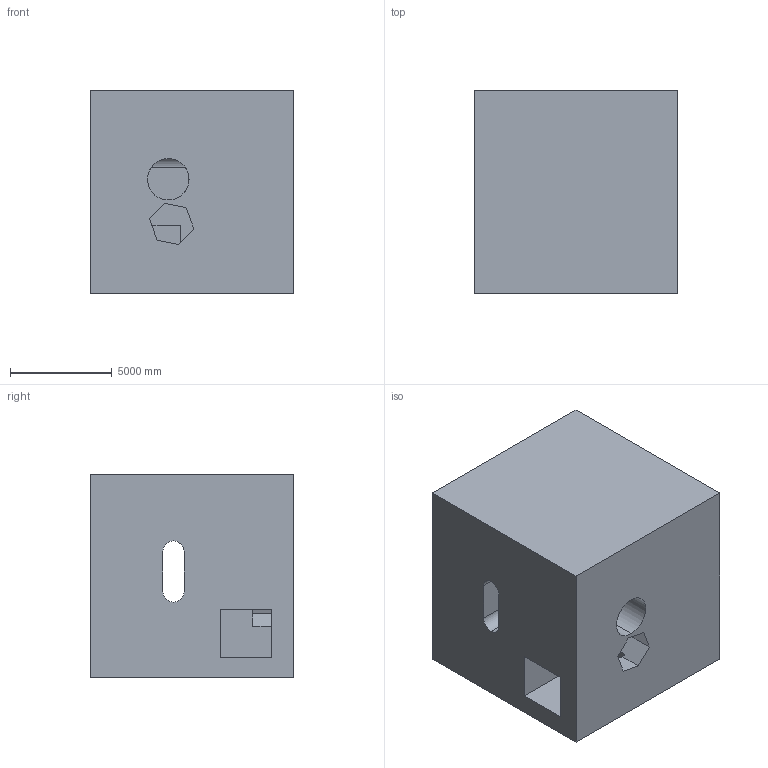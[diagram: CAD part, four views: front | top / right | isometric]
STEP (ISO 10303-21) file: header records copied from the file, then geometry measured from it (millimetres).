
FILE_DESCRIPTION (( 'STEP AP203' ), '1' );
FILE_NAME ('483.STEP', '2022-07-29T11:27:54', ( 'user' ), ( '' ), 'SwSTEP 2.0', 'SolidWorks 2021', '' );
FILE_SCHEMA (( 'CONFIG_CONTROL_DESIGN' ));
Length unit declared in the file: centimetre
Products named in the file (1): 483
Bounding box: 10000 x 10000 x 10000 mm (x, y, z)
Volume: 914703610532 mm3; surface area: 747075851.6 mm2
Topology: 1 solids, 1 shells, 29 faces, 84 edges, 56 vertices
Faces by surface type: plane 22, cylinder 7
Entity records: 1141 total; most frequent: CARTESIAN_POINT 274, ORIENTED_EDGE 168, DIRECTION 156, EDGE_CURVE 84, LINE 68, VECTOR 68, VERTEX_POINT 56, AXIS2_PLACEMENT_3D 44
